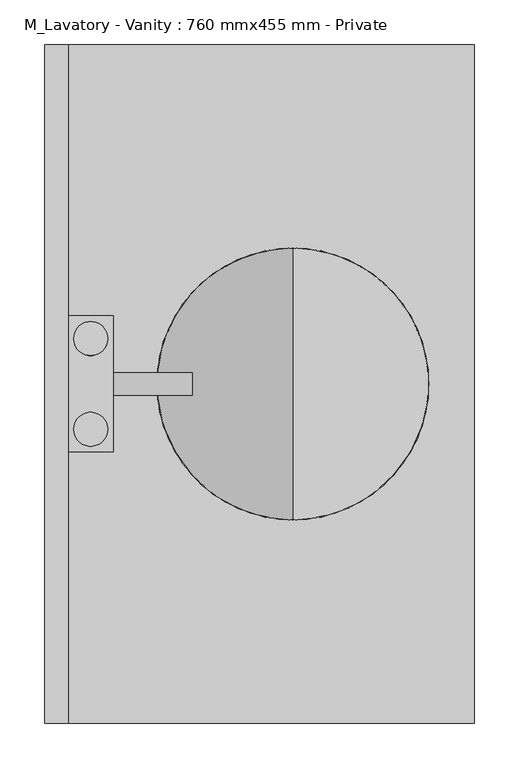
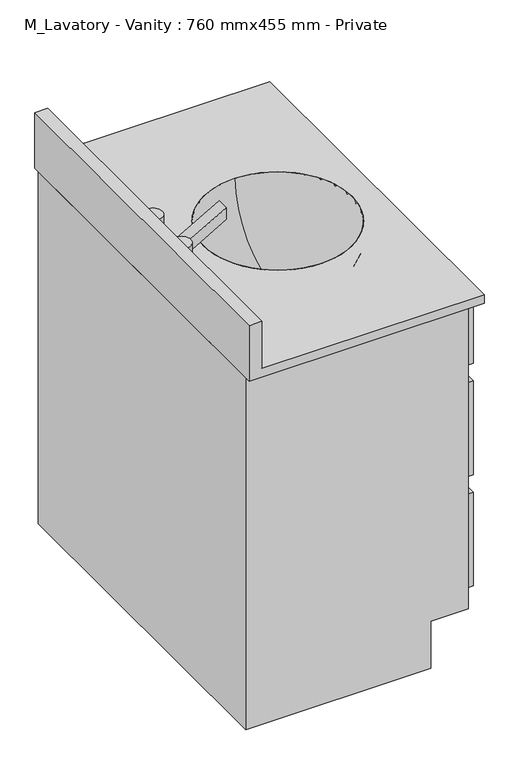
"""IFC4 building model written with IfcOpenShell, lengths in millimetres: flow terminal geometry, M_Lavatory - Vanity : 760 mmx455 mm - Private."""

from ifc_helpers import new_model, si_unit, point, frame, origin, place, context, project, spatial, polyline, circle_curve, ellipse_curve, trimmed, faceted_brep, source, transform, mapped, element, save
from ifc_brep_helpers import plane_surface, cylinder_surface, revolved_surface, advanced_brep


def m_lavatory_vanity_760_mmx455_mm_private_e939bdd3(model_context):
    return source(origin(), model_context, "Body", "SolidModel", [
        advanced_brep(
        [(32.54375, 50.8, 844.55), (70.64375, 50.8, 844.55), (32.54375, -50.8, 844.55), (70.64375, -50.8, 844.55), (32.54375, 50.8, 806.45), (70.64375, 50.8, 806.45), (32.54375, -50.8, 806.45), (70.64375, -50.8, 806.45), (76.99375, 76.2, 806.45), (26.19375, 76.2, 806.45), (26.19375, -76.2, 806.45), (76.99375, -76.2, 806.45), (76.99375, -12.7, 806.45), (76.99375, 12.7, 806.45), (76.99375, -76.2, 781.05), (26.19375, -76.2, 781.05), (26.19375, 76.2, 781.05), (76.99375, 76.2, 781.05), (76.99375, 12.7, 781.05), (76.99375, -12.7, 781.05), (165.1, -12.7, 831.85), (165.1, -12.7, 857.25), (165.1, 12.7, 857.25), (165.1, 12.7, 831.85)],
        [
            (0, 1, circle_curve(frame((51.59375, 50.8, 844.55), z_axis=(0.0, 0.0, 1.0), x_axis=(1.0, 0.0, 0.0)), 19.05)),
            (1, 0, circle_curve(frame((51.59375, 50.8, 844.55), z_axis=(0.0, 0.0, 1.0), x_axis=(1.0, 0.0, 0.0)), 19.05)),
            (2, 3, circle_curve(frame((51.59375, -50.8, 844.55), z_axis=(0.0, 0.0, 1.0), x_axis=(1.0, 0.0, 0.0)), 19.05)),
            (3, 2, circle_curve(frame((51.59375, -50.8, 844.55), z_axis=(0.0, 0.0, 1.0), x_axis=(1.0, 0.0, 0.0)), 19.05)),
            (0, 4),
            (4, 5, circle_curve(frame((51.59375, 50.8, 806.45), z_axis=(0.0, 0.0, 1.0), x_axis=(1.0, 0.0, 0.0)), 19.05)),
            (5, 1),
            (5, 4, circle_curve(frame((51.59375, 50.8, 806.45), z_axis=(0.0, 0.0, 1.0), x_axis=(1.0, 0.0, 0.0)), 19.05)),
            (2, 6),
            (6, 7, circle_curve(frame((51.59375, -50.8, 806.45), z_axis=(0.0, 0.0, 1.0), x_axis=(1.0, 0.0, 0.0)), 19.05)),
            (7, 3),
            (7, 6, circle_curve(frame((51.59375, -50.8, 806.45), z_axis=(0.0, 0.0, 1.0), x_axis=(1.0, 0.0, 0.0)), 19.05)),
            (8, 9),
            (9, 10),
            (10, 11),
            (11, 12),
            (12, 13),
            (13, 8),
            (14, 15),
            (15, 16),
            (16, 17),
            (17, 18),
            (18, 19),
            (19, 14),
            (8, 17),
            (16, 9),
            (15, 10),
            (14, 11),
            (13, 18),
            (19, 12),
            (19, 20),
            (20, 21),
            (21, 12),
            (13, 22),
            (22, 23),
            (23, 18),
            (23, 20),
            (22, 21),
        ],
        [
            plane_surface(frame((70.64375, 50.8, 844.55), z_axis=(0.0, 0.0, 1.0), x_axis=(0.0, 1.0, 0.0))),
            cylinder_surface(frame((51.59375, 50.8, 806.45), z_axis=(0.0, 0.0, 1.0), x_axis=(1.0, 0.0, 0.0)), 19.05),
            cylinder_surface(frame((51.59375, -50.8, 0.0), z_axis=(0.0, 0.0, 1.0), x_axis=(1.0, 0.0, 0.0)), 19.05),
            plane_surface(frame((26.19375, 76.2, 806.45), z_axis=(0.0, 0.0, 1.0), x_axis=(-1.0, 0.0, 0.0))),
            plane_surface(frame((26.19375, 76.2, 781.05), z_axis=(0.0, 0.0, -1.0), x_axis=(1.0, 0.0, 0.0))),
            plane_surface(frame((76.99375, 76.2, 806.45), z_axis=(0.0, 1.0, 0.0), x_axis=(0.0, 0.0, -1.0))),
            plane_surface(frame((26.19375, 76.2, 806.45), z_axis=(-1.0, 0.0, 0.0), x_axis=(0.0, 0.0, -1.0))),
            plane_surface(frame((26.19375, -76.2, 806.45), z_axis=(0.0, -1.0, 0.0), x_axis=(0.0, 0.0, -1.0))),
            plane_surface(frame((76.99375, -76.2, 806.45), z_axis=(1.0, 0.0, 0.0), x_axis=(0.0, 0.0, -1.0))),
            plane_surface(frame((76.99375, -12.7, 806.45), z_axis=(0.0, -1.0, 0.0), x_axis=(0.0, 0.0, -1.0))),
            plane_surface(frame((76.99375, 12.7, 806.45), z_axis=(0.0, 1.0, 0.0), x_axis=(0.0, 0.0, 1.0))),
            plane_surface(frame((76.99375, -12.7, 781.05), z_axis=(0.4994972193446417, 0.0, -0.8663154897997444), x_axis=(0.0, 1.0, 0.0))),
            plane_surface(frame((165.1, -12.7, 831.85), z_axis=(1.0, 0.0, 0.0), x_axis=(0.0, 1.0, 0.0))),
            plane_surface(frame((165.1, -12.7, 857.25), z_axis=(-0.4994972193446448, 0.0, 0.8663154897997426), x_axis=(0.0, 1.0, 0.0))),
        ],
        [
            (0, [[1, 2]]),
            (0, [[3, 4]]),
            (1, [[-1, 5, 6, 7]]),
            (1, [[-2, -7, 8, -5]]),
            (2, [[-3, 9, 10, 11]]),
            (2, [[-4, -11, 12, -9]]),
            (3, [[13, 14, 15, 16, 17, 18], [-6, -8], [-10, -12]]),
            (4, [[19, 20, 21, 22, 23, 24]]),
            (5, [[-13, 25, -21, 26]]),
            (6, [[-14, -26, -20, 27]]),
            (7, [[-15, -27, -19, 28]]),
            (8, [[-25, -18, 29, -22]]),
            (8, [[-28, -24, 30, -16]]),
            (9, [[31, 32, 33, -30]]),
            (10, [[34, 35, 36, -29]]),
            (11, [[-31, -23, -36, 37]]),
            (12, [[-32, -37, -35, 38]]),
            (13, [[-33, -38, -34, -17]]),
        ],
    ),
        advanced_brep(
        [(277.99375, 0.0, 628.65), (277.99375, 152.4, 781.05), (277.99375, -152.4, 781.05), (277.99375, -44.45, 628.65), (277.99375, 44.45, 628.65), (277.99375, 0.0, 628.65), (277.99375, -157.6028553, 762.0), (277.99375, 157.6028553, 762.0)],
        [
            (0, 1, circle_curve(frame((277.99375, 0.0, 781.05), z_axis=(1.0, 0.0, 0.0), x_axis=(0.0, 1.0, 0.0)), 152.4)),
            (1, 2, circle_curve(frame((277.99375, 0.0, 781.05), z_axis=(0.0, 0.0, 1.0), x_axis=(0.0, 1.0, 0.0)), 152.4)),
            (2, 0, circle_curve(frame((277.99375, 0.0, 781.05), z_axis=(1.0, 0.0, 0.0), x_axis=(0.0, -1.0, 0.0)), 152.4)),
            (2, 1, circle_curve(frame((277.99375, 0.0, 781.05), z_axis=(0.0, 0.0, 1.0), x_axis=(0.0, 1.0, 0.0)), 152.4)),
            (3, 4, circle_curve(frame((277.99375, 0.0, 628.65), z_axis=(0.0, 0.0, -1.0), x_axis=(0.0, 1.0, 0.0)), 44.45)),
            (4, 5),
            (5, 3),
            (4, 3, circle_curve(frame((277.99375, 0.0, 628.65), z_axis=(0.0, 0.0, -1.0), x_axis=(0.0, 1.0, 0.0)), 44.45)),
            (6, 7, circle_curve(frame((277.99375, 0.0, 762.0), z_axis=(0.0, 0.0, -1.0), x_axis=(0.0, 1.0, 0.0)), 157.6028553)),
            (7, 4, circle_curve(frame((277.99375, 0.0, 781.05), z_axis=(-1.0, 0.0, 0.0), x_axis=(0.0, 1.0, 0.0)), 158.75)),
            (3, 6, circle_curve(frame((277.99375, 0.0, 781.05), z_axis=(-1.0, 0.0, 0.0), x_axis=(0.0, -1.0, 0.0)), 158.75)),
            (7, 6, circle_curve(frame((277.99375, 0.0, 762.0), z_axis=(0.0, 0.0, -1.0), x_axis=(0.0, 1.0, 0.0)), 157.6028553)),
            (1, 7),
            (6, 2),
        ],
        [
            revolved_surface(trimmed(ellipse_curve(frame((277.99375, 0.0, 781.05), z_axis=(-1.0, 0.0, 0.0), x_axis=(0.0, 1.0, 0.0)), 152.4, 152.4), [point((277.99375, 152.4, 781.05))], [point((277.99375, 0.0, 628.65))], True, "CARTESIAN"), (277.99375, 0.0, 520.7), (0.0, 0.0, 1.0)),
            plane_surface(frame((277.99375, 0.0, 628.65), z_axis=(0.0, 0.0, -1.0), x_axis=(0.0, 1.0, 0.0))),
            revolved_surface(trimmed(ellipse_curve(frame((277.99375, 0.0, 781.05), z_axis=(1.0, 0.0, 0.0), x_axis=(0.0, 1.0, 0.0)), 158.75, 158.75), [point((277.99375, 44.45, 628.65))], [point((277.99375, 157.6028553, 762.0))], True, "CARTESIAN"), (277.99375, 0.0, 520.7), (0.0, 0.0, 1.0)),
            revolved_surface(polyline([(277.99375, 157.6028553, 762.0), (277.99375, 152.4, 781.05)]), (277.99375, 0.0, 520.7), (0.0, 0.0, 1.0)),
        ],
        [
            (0, [[1, 2, 3]]),
            (0, [[-3, 4, -1]]),
            (1, [[5, 6, 7]]),
            (1, [[8, -7, -6]]),
            (2, [[9, 10, -5, 11]]),
            (2, [[12, -11, -8, -10]]),
            (3, [[-2, 13, -9, 14]]),
            (3, [[-4, -14, -12, -13]]),
        ],
    ),
        advanced_brep(
        [(481.19375, -380.0, 781.05), (481.19375, 380.0, 781.05), (26.19375, 380.0, 781.05), (26.19375, -380.0, 781.05), (430.39375, 0.0, 781.05), (125.59375, 0.0, 781.05), (481.19375, 380.0, 762.0), (481.19375, -380.0, 762.0), (0.0, -380.0, 762.0), (0.0, 380.0, 762.0), (125.59375, 0.0, 762.0), (430.39375, 0.0, 762.0), (0.0, 380.0, 882.65), (26.19375, 380.0, 882.65), (0.0, -380.0, 882.65), (26.19375, -380.0, 882.65)],
        [
            (0, 1),
            (1, 2),
            (2, 3),
            (3, 0),
            (4, 5, circle_curve(frame((277.99375, 0.0, 781.05), z_axis=(0.0, 0.0, -1.0), x_axis=(1.0, 0.0, 0.0)), 152.4)),
            (5, 4, circle_curve(frame((277.99375, 0.0, 781.05), z_axis=(0.0, 0.0, -1.0), x_axis=(1.0, 0.0, 0.0)), 152.4)),
            (6, 7),
            (7, 8),
            (8, 9),
            (9, 6),
            (10, 11, circle_curve(frame((277.99375, 0.0, 762.0), z_axis=(0.0, 0.0, 1.0), x_axis=(1.0, 0.0, 0.0)), 152.4)),
            (11, 10, circle_curve(frame((277.99375, 0.0, 762.0), z_axis=(0.0, 0.0, 1.0), x_axis=(1.0, 0.0, 0.0)), 152.4)),
            (9, 12),
            (12, 13),
            (13, 2),
            (1, 6),
            (8, 14),
            (14, 12),
            (7, 0),
            (3, 15),
            (15, 14),
            (4, 11),
            (10, 5),
            (15, 13),
        ],
        [
            plane_surface(frame((0.0, 380.0, 781.05), z_axis=(0.0, 0.0, 1.0), x_axis=(-1.0, 0.0, 0.0))),
            plane_surface(frame((0.0, 380.0, 762.0), z_axis=(0.0, 0.0, -1.0), x_axis=(1.0, 0.0, 0.0))),
            plane_surface(frame((481.19375, 380.0, 781.05), z_axis=(0.0, 1.0, 0.0), x_axis=(0.0, 0.0, -1.0))),
            plane_surface(frame((0.0, 380.0, 781.05), z_axis=(-1.0, 0.0, 0.0), x_axis=(0.0, 0.0, -1.0))),
            plane_surface(frame((0.0, -380.0, 781.05), z_axis=(0.0, -1.0, 0.0), x_axis=(0.0, 0.0, -1.0))),
            plane_surface(frame((481.19375, -380.0, 781.05), z_axis=(1.0, 0.0, 0.0), x_axis=(0.0, 0.0, -1.0))),
            revolved_surface(polyline([(430.39374999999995, 0.0, 781.05), (430.39374999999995, 0.0, 762.0)]), (277.99375, 0.0, 762.0), (0.0, 0.0, 1.0)),
            plane_surface(frame((0.0, 380.0, 882.65), z_axis=(0.0, 0.0, 1.0), x_axis=(-1.0, 0.0, 0.0))),
            plane_surface(frame((26.19375, -380.0, 882.65), z_axis=(1.0, 0.0, 0.0), x_axis=(0.0, 0.0, -1.0))),
        ],
        [
            (0, [[1, 2, 3, 4], [5, 6]]),
            (1, [[7, 8, 9, 10], [11, 12]]),
            (2, [[-10, 13, 14, 15, -2, 16]]),
            (3, [[-13, -9, 17, 18]]),
            (4, [[-17, -8, 19, -4, 20, 21]]),
            (5, [[-1, -19, -7, -16]]),
            (6, [[22, -11, 23, -5]]),
            (6, [[-22, -6, -23, -12]]),
            (7, [[-14, -18, -21, 24]]),
            (8, [[-24, -20, -3, -15]]),
        ],
    ),
        faceted_brep([(379.59375, 367.3, 0.0), (379.59375, -367.3, 0.0), (0.0, -367.3, 0.0), (0.0, 367.3, 0.0), (0.0, 367.3, 762.0), (455.79375, 367.3, 762.0), (455.79375, 367.3, 101.6), (379.59375, 367.3, 101.6), (0.0, -367.3, 762.0), (379.59375, -367.3, 101.6), (455.79375, -367.3, 101.6), (455.79375, -367.3, 762.0), (26.19375, 341.9, 762.0), (443.09375, 341.9, 762.0), (443.09375, -341.9, 762.0), (26.19375, -341.9, 762.0), (455.79375, -341.9, 736.6), (455.79375, 341.9, 736.6), (455.79375, 341.9, 609.6), (455.79375, -341.9, 609.6), (455.79375, -341.9, 571.5), (455.79375, -87.9, 571.5), (455.79375, -87.9, 368.3), (455.79375, -341.9, 368.3), (455.79375, -341.9, 330.2), (455.79375, -87.9, 330.2), (455.79375, -87.9, 127.0), (455.79375, -341.9, 127.0), (455.79375, -49.8, 571.5), (455.79375, 341.9, 571.5), (455.79375, 341.9, 127.0), (455.79375, -49.8, 127.0), (443.09375, 341.9, 368.3), (26.19375, 341.9, 368.3), (26.19375, -341.9, 368.3), (443.09375, -341.9, 368.3), (481.19375, 341.9, 736.6), (481.19375, -341.9, 736.6), (481.19375, -341.9, 609.6), (481.19375, 341.9, 609.6), (481.19375, -87.9, 571.5), (481.19375, -341.9, 571.5), (481.19375, -341.9, 368.3), (481.19375, -87.9, 368.3), (481.19375, -87.9, 330.2), (481.19375, -341.9, 330.2), (481.19375, -341.9, 127.0), (481.19375, -87.9, 127.0), (481.19375, 341.9, 571.5), (481.19375, -49.8, 571.5), (481.19375, -49.8, 127.0), (481.19375, 341.9, 127.0)], [[[0, 1, 2, 3]], [[0, 3, 4, 5, 6, 7]], [[3, 2, 8, 4]], [[2, 1, 9, 10, 11, 8]], [[1, 0, 7, 9]], [[5, 4, 8, 11], [12, 13, 14, 15]], [[6, 10, 9, 7]], [[5, 11, 10, 6], [16, 17, 18, 19], [20, 21, 22, 23], [24, 25, 26, 27], [28, 29, 30, 31]], [[32, 33, 34, 35]], [[33, 32, 13, 12]], [[34, 33, 12, 15]], [[35, 34, 15, 14]], [[32, 35, 14, 13]], [[36, 37, 38, 39]], [[40, 41, 42, 43]], [[44, 45, 46, 47]], [[48, 49, 50, 51]], [[37, 36, 17, 16]], [[38, 37, 16, 19]], [[39, 38, 19, 18]], [[36, 39, 18, 17]], [[41, 40, 21, 20]], [[42, 41, 20, 23]], [[43, 42, 23, 22]], [[40, 43, 22, 21]], [[45, 44, 25, 24]], [[46, 45, 24, 27]], [[47, 46, 27, 26]], [[44, 47, 26, 25]], [[49, 48, 29, 28]], [[50, 49, 28, 31]], [[51, 50, 31, 30]], [[48, 51, 30, 29]]]),
    ])


if __name__ == "__main__":
    model = new_model("IFC4")
    model_context = context("Model", 3, world=origin())
    ifc_project = project(units=[si_unit("LENGTHUNIT", "METRE", prefix="MILLI")], contexts=[model_context])
    site = spatial("IfcSite", under=ifc_project)
    building = spatial("IfcBuilding", under=site)
    placement = place(None, origin())
    m_lavatory_vanity_760_mmx455_mm_private_shape = m_lavatory_vanity_760_mmx455_mm_private_e939bdd3(model_context)
    element("IfcFlowTerminal", 1, ObjectType="M_Lavatory - Vanity : 760 mmx455 mm - Private", at=placement, inside=building, context=model_context, shape_type="MappedRepresentation", body=[
        mapped(m_lavatory_vanity_760_mmx455_mm_private_shape, transform((0.0, 0.0, 0.0), x_axis=(1.0, 0.0, 0.0), y_axis=(0.0, 1.0, 0.0), z_axis=(0.0, 0.0, 1.0))),
    ])
    save(model, "model.ifc")
